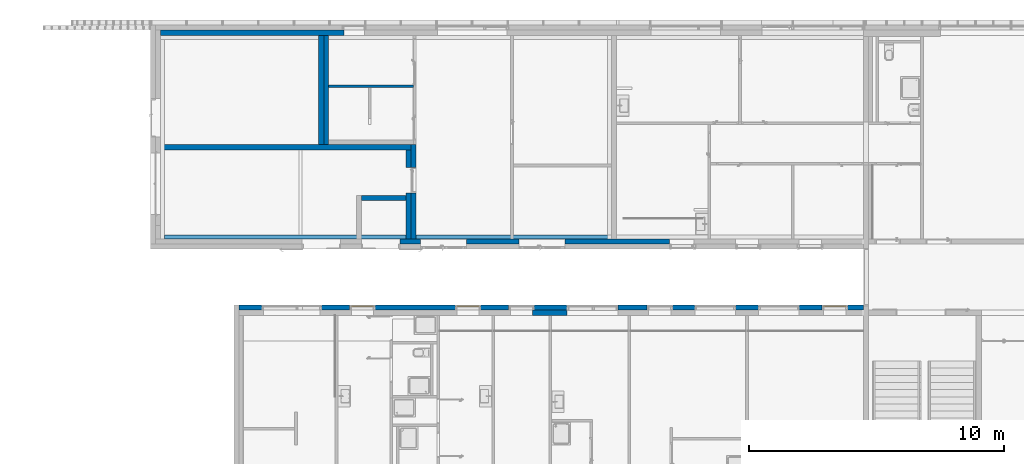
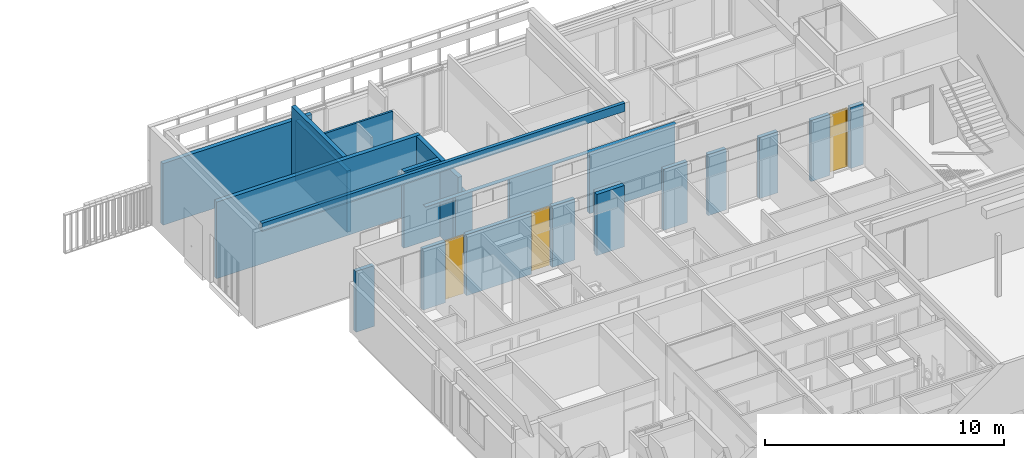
# One storey, part 113 of 240: 12 walls, 3 windows, 27 openings.
"""IFC2X3 building model written with IfcOpenShell, lengths in centimetres."""

from ifc_helpers import new_model, entity, si_unit, converted_unit, derived_unit, direction, frame, frame_2d, origin, origin_2d_with_axis, place, context, subcontext, project, spatial, polyline, rectangle, extrude, clip, bounded_halfspace, faceted_brep, source, transform, mapped, material, material_list, layer, layer_set, layer_usage, type_object, type_shapes, element, fill, save


model = new_model("IFC2X3")

# Units and contexts
model_context = context("Model", 3, precision=0.001, world=origin(), true_north=direction((6.12303176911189e-17, 1.0)))
body_context = subcontext(model_context, "Body", "Model", "MODEL_VIEW")
ifc_project = project(units=[si_unit("LENGTHUNIT", "METRE", prefix="CENTI"), si_unit("AREAUNIT", "SQUARE_METRE"), si_unit("VOLUMEUNIT", "CUBIC_METRE"), converted_unit("PLANEANGLEUNIT", "DEGREE", entity("IfcRatioMeasure", 0.0174532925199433), si_unit("PLANEANGLEUNIT", "RADIAN"), dimensions=[0, 0, 0, 0, 0, 0, 0]), si_unit("MASSUNIT", "GRAM", prefix="KILO"), derived_unit("MASSDENSITYUNIT", [(si_unit("MASSUNIT", "GRAM", prefix="KILO"), 1), (si_unit("LENGTHUNIT", "METRE"), -3)]), si_unit("TIMEUNIT", "SECOND"), si_unit("FREQUENCYUNIT", "HERTZ"), si_unit("THERMODYNAMICTEMPERATUREUNIT", "DEGREE_CELSIUS"), derived_unit("THERMALTRANSMITTANCEUNIT", [(si_unit("MASSUNIT", "GRAM", prefix="KILO"), 1), (si_unit("THERMODYNAMICTEMPERATUREUNIT", "KELVIN"), -1), (si_unit("TIMEUNIT", "SECOND"), -3)]), derived_unit("VOLUMETRICFLOWRATEUNIT", [(si_unit("LENGTHUNIT", "METRE"), 3), (si_unit("TIMEUNIT", "SECOND"), -1)]), si_unit("ELECTRICCURRENTUNIT", "AMPERE"), si_unit("ELECTRICVOLTAGEUNIT", "VOLT"), si_unit("POWERUNIT", "WATT"), si_unit("FORCEUNIT", "NEWTON", prefix="KILO"), si_unit("ILLUMINANCEUNIT", "LUX"), si_unit("LUMINOUSFLUXUNIT", "LUMEN"), si_unit("LUMINOUSINTENSITYUNIT", "CANDELA"), derived_unit("USERDEFINED", [(si_unit("MASSUNIT", "GRAM", prefix="KILO"), -1), (si_unit("LENGTHUNIT", "METRE"), -2), (si_unit("TIMEUNIT", "SECOND"), 3), (si_unit("LUMINOUSFLUXUNIT", "LUMEN"), 1)]), derived_unit("LINEARVELOCITYUNIT", [(si_unit("LENGTHUNIT", "METRE"), 1), (si_unit("TIMEUNIT", "SECOND"), -1)]), si_unit("PRESSUREUNIT", "PASCAL"), derived_unit("USERDEFINED", [(si_unit("LENGTHUNIT", "METRE"), -2), (si_unit("MASSUNIT", "GRAM", prefix="KILO"), 1), (si_unit("TIMEUNIT", "SECOND"), -2)])], contexts=[model_context])

# Site, building, storey
site_placement = place(None, frame((-2781.94577612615, 7442.24238424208, 0.0)))
site = spatial("IfcSite", under=ifc_project, at=site_placement, Name="Default", CompositionType="ELEMENT")
building_placement = place(site_placement, origin())
building = spatial("IfcBuilding", under=site, at=building_placement, CompositionType="ELEMENT")
storey_placement = place(building_placement, origin())
storey = spatial("IfcBuildingStorey", under=building, at=storey_placement, Name="N00 - COO", CompositionType="ELEMENT", Elevation=0.0)

# Wall, openings, windows
ifc_material_1 = material(Name="Aluminium bardage")
ifc_layer_1 = layer(ifc_material_1, 0.5)
ifc_material_2 = material(Name="01 - Lame d'air")
ifc_layer_2 = layer(ifc_material_2, 1.5)
ifc_material_3 = material(Name="00 - Isolant")
ifc_layer_3 = layer(ifc_material_3, 18.0)
ifc_layer_set_1 = layer_set([ifc_layer_1, ifc_layer_2, ifc_layer_3], Name="Mur de base:04 - Parement - ITE 18cm + vide 2cm")
ifc_layer_usage_1 = layer_usage(ifc_layer_set_1, "AXIS2", "NEGATIVE", 10.0)
wall_type_1 = type_object("IfcWallType", Name="Mur de base:04 - Parement - ITE 18cm + vide 2cm", PredefinedType="STANDARD", material=ifc_layer_set_1)
wall_1_placement = place(building_placement, frame((-10881.6130476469, -1080.0, 0.0)))
wall_1 = element("IfcWallStandardCase", 1, at=wall_1_placement, inside=storey, type_object=wall_type_1, material=ifc_layer_usage_1, Name="Mur de base:04 - Parement - ITE 18cm + vide 2cm", ObjectType="Mur de base:04 - Parement - ITE 18cm + vide 2cm", context=body_context, shape_type="SweptSolid", body=[
    extrude(rectangle(XDim=2452.0, YDim=20.0000000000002, at=frame_2d((1226.0, 6.83897383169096e-14), x_axis=(-1.0, 0.0))), origin(), (0.0, 0.0, 1.0), 311.0),
])
opening_1_placement = place(wall_1_placement, origin())
element("IfcOpeningElement", 2, at=opening_1_placement, cuts=wall_1, Name="Mur de base:04 - Parement - ITE 18cm + vide 2cm", ObjectType="Opening", context=body_context, shape_type="SweptSolid", body=[
    extrude(rectangle(XDim=310.999999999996, YDim=235.0, at=frame_2d((8.66862137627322e-13, 0.0), x_axis=(0.0, 1.0))), frame((206.231919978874, -25.2399999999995, 155.499999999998), z_axis=(0.0, 1.0, 0.0), x_axis=(-1.0, 0.0, 0.0)), (0.0, 0.0, 1.0), 50.48),
])
opening_2_placement = place(wall_1_placement, origin())
element("IfcOpeningElement", 3, at=opening_2_placement, cuts=wall_1, Name="Mur de base:04 - Parement - ITE 18cm + vide 2cm", ObjectType="Opening", context=body_context, shape_type="SweptSolid", body=[
    extrude(rectangle(XDim=312.5, YDim=160.0, at=frame_2d((-8.66862137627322e-13, 0.0), x_axis=(0.0, 1.0))), frame((2119.61316997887, -25.2399999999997, 156.25), z_axis=(0.0, 1.0, 0.0), x_axis=(-1.0, 0.0, 0.0)), (0.0, 0.0, 1.0), 50.48),
])
opening_3_placement = place(wall_1_placement, origin())
element("IfcOpeningElement", 4, at=opening_3_placement, cuts=wall_1, Name="Mur de base:04 - Parement - ITE 18cm + vide 2cm", ObjectType="Opening", context=body_context, shape_type="SweptSolid", body=[
    extrude(rectangle(XDim=312.5, YDim=160.0, at=frame_2d((-8.66862137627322e-13, 0.0), x_axis=(0.0, 1.0))), frame((1869.61316997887, -25.2399999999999, 156.25), z_axis=(0.0, 1.0, 0.0), x_axis=(-1.0, 0.0, 0.0)), (0.0, 0.0, 1.0), 50.48),
])
opening_4_placement = place(wall_1_placement, origin())
element("IfcOpeningElement", 5, at=opening_4_placement, cuts=wall_1, Name="Mur de base:04 - Parement - ITE 18cm + vide 2cm", ObjectType="Opening", context=body_context, shape_type="SweptSolid", body=[
    extrude(rectangle(XDim=312.5, YDim=200.000000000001, at=frame_2d((-8.66862137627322e-13, 0.0), x_axis=(0.0, 1.0))), frame((1387.11316997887, -25.2399999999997, 156.25), z_axis=(0.0, 1.0, 0.0), x_axis=(-1.0, 0.0, 0.0)), (0.0, 0.0, 1.0), 50.48),
])
opening_5_placement = place(wall_1_placement, origin())
element("IfcOpeningElement", 6, at=opening_5_placement, cuts=wall_1, Name="Mur de base:04 - Parement - ITE 18cm + vide 2cm", ObjectType="Opening", context=body_context, shape_type="SweptSolid", body=[
    extrude(rectangle(XDim=312.5, YDim=99.9999999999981, at=frame_2d((0.0, 0.0), x_axis=(0.0, 1.0))), frame((2339.61316997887, -25.2399999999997, 156.25), z_axis=(0.0, 1.0, 0.0), x_axis=(-1.0, 0.0, 0.0)), (0.0, 0.0, 1.0), 50.48),
])
opening_6_placement = place(wall_1_placement, origin())
element("IfcOpeningElement", 7, at=opening_6_placement, cuts=wall_1, Name="Mur de base:04 - Parement - ITE 18cm + vide 2cm", ObjectType="Opening", context=body_context, shape_type="SweptSolid", body=[
    extrude(rectangle(XDim=312.5, YDim=99.9999999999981, at=frame_2d((0.0, 0.0), x_axis=(0.0, 1.0))), frame((1652.11316997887, -25.2399999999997, 156.25), z_axis=(0.0, 1.0, 0.0), x_axis=(-1.0, 0.0, 0.0)), (0.0, 0.0, 1.0), 50.48),
])
opening_7_placement = place(wall_1_placement, origin())
element("IfcOpeningElement", 8, at=opening_7_placement, cuts=wall_1, Name="Mur de base:04 - Parement - ITE 18cm + vide 2cm", ObjectType="Opening", context=body_context, shape_type="SweptSolid", body=[
    extrude(rectangle(XDim=312.5, YDim=99.9999999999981, at=frame_2d((0.0, 0.0), x_axis=(0.0, 1.0))), frame((1108.61316997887, -25.2399999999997, 156.25), z_axis=(0.0, 1.0, 0.0), x_axis=(-1.0, 0.0, 0.0)), (0.0, 0.0, 1.0), 50.48),
])
opening_8_placement = place(wall_1_placement, origin())
element("IfcOpeningElement", 9, at=opening_8_placement, cuts=wall_1, Name="Mur de base:04 - Parement - ITE 18cm + vide 2cm", ObjectType="Opening", context=body_context, shape_type="SweptSolid", body=[
    extrude(rectangle(XDim=312.5, YDim=99.9999999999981, at=frame_2d((0.0, 0.0), x_axis=(0.0, 1.0))), frame((898.61316997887, -25.2399999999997, 156.25), z_axis=(0.0, 1.0, 0.0), x_axis=(-1.0, 0.0, 0.0)), (0.0, 0.0, 1.0), 50.48),
])
opening_9_placement = place(wall_1_placement, origin())
element("IfcOpeningElement", 10, at=opening_9_placement, cuts=wall_1, Name="Mur de base:04 - Parement - ITE 18cm + vide 2cm", ObjectType="Opening", context=body_context, shape_type="SweptSolid", body=[
    extrude(rectangle(XDim=312.5, YDim=99.9999999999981, at=frame_2d((0.0, 0.0), x_axis=(0.0, 1.0))), frame((483.613169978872, -25.2399999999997, 156.25), z_axis=(0.0, 1.0, 0.0), x_axis=(-1.0, 0.0, 0.0)), (0.0, 0.0, 1.0), 50.48),
])
opening_10_placement = place(wall_1_placement, frame((230.11316997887, -10.0, 6.5)))
element("IfcOpeningElement", 11, at=opening_10_placement, cuts=wall_1, Name="Ouvrant vitré:Ouvrant vitré (93cm) RDC:1", ObjectType="Opening", context=body_context, shape_type="SweptSolid", body=[
    extrude(rectangle(XDim=299.5, YDim=87.0000000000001, at=frame_2d((149.75, 43.5), x_axis=(1.0, 0.0))), frame((0.0, 0.0, 0.0), z_axis=(0.0, 1.0, 0.0), x_axis=(0.0, 0.0, 1.0)), (0.0, 0.0, 1.0), 20.0),
])
opening_11_placement = place(wall_1_placement, frame((440.113169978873, -10.0, 6.5)))
opening_11 = element("IfcOpeningElement", 12, at=opening_11_placement, cuts=wall_1, Name="Ouvrant vitré:Ouvrant vitré (93cm) RDC:1", ObjectType="Opening", context=body_context, shape_type="SweptSolid", body=[
    extrude(rectangle(XDim=299.5, YDim=87.0000000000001, at=frame_2d((149.75, 43.5), x_axis=(1.0, 0.0))), frame((0.0, 0.0, 0.0), z_axis=(0.0, 1.0, 0.0), x_axis=(0.0, 0.0, 1.0)), (0.0, 0.0, 1.0), 20.0),
])
opening_12_placement = place(wall_1_placement, frame((855.11316997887, -10.0, 6.5)))
opening_12 = element("IfcOpeningElement", 13, at=opening_12_placement, cuts=wall_1, Name="Ouvrant vitré:Ouvrant vitré (93cm) RDC:1", ObjectType="Opening", context=body_context, shape_type="SweptSolid", body=[
    extrude(rectangle(XDim=299.5, YDim=87.0000000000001, at=frame_2d((149.75, 43.5000000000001), x_axis=(1.0, 0.0))), frame((0.0, 0.0, 0.0), z_axis=(0.0, 1.0, 0.0), x_axis=(0.0, 0.0, 1.0)), (0.0, 0.0, 1.0), 20.0),
])
opening_13_placement = place(wall_1_placement, frame((1065.11316997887, -10.0, 6.5)))
element("IfcOpeningElement", 14, at=opening_13_placement, cuts=wall_1, Name="Ouvrant vitré:Ouvrant vitré (93cm) RDC:1", ObjectType="Opening", context=body_context, shape_type="SweptSolid", body=[
    extrude(rectangle(XDim=299.5, YDim=87.0000000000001, at=frame_2d((149.75, 43.5000000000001), x_axis=(1.0, 0.0))), frame((0.0, 0.0, 0.0), z_axis=(0.0, 1.0, 0.0), x_axis=(0.0, 0.0, 1.0)), (0.0, 0.0, 1.0), 20.0),
])
opening_14_placement = place(wall_1_placement, frame((1393.61316997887, -10.0, 6.5)))
element("IfcOpeningElement", 15, at=opening_14_placement, cuts=wall_1, Name="Ouvrant vitré:Ouvrant vitré (93cm) RDC:1", ObjectType="Opening", context=body_context, shape_type="SweptSolid", body=[
    extrude(rectangle(XDim=299.5, YDim=87.0000000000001, at=frame_2d((149.75, 43.5000000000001), x_axis=(1.0, 0.0))), frame((0.0, 0.0, 0.0), z_axis=(0.0, 1.0, 0.0), x_axis=(0.0, 0.0, 1.0)), (0.0, 0.0, 1.0), 20.0),
])
opening_15_placement = place(wall_1_placement, frame((1608.61316997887, -10.0, 6.5)))
element("IfcOpeningElement", 16, at=opening_15_placement, cuts=wall_1, Name="Ouvrant vitré:Ouvrant vitré (93cm) RDC:1", ObjectType="Opening", context=body_context, shape_type="SweptSolid", body=[
    extrude(rectangle(XDim=299.5, YDim=87.0000000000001, at=frame_2d((149.75, 43.5000000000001), x_axis=(1.0, 0.0))), frame((0.0, 0.0, 0.0), z_axis=(0.0, 1.0, 0.0), x_axis=(0.0, 0.0, 1.0)), (0.0, 0.0, 1.0), 20.0),
])
opening_16_placement = place(wall_1_placement, frame((2296.11316997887, -10.0, 6.5)))
opening_16 = element("IfcOpeningElement", 17, at=opening_16_placement, cuts=wall_1, Name="Ouvrant vitré:Ouvrant vitré (93cm) RDC:1", ObjectType="Opening", context=body_context, shape_type="SweptSolid", body=[
    extrude(rectangle(XDim=299.5, YDim=87.0000000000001, at=frame_2d((149.75, 43.5000000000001), x_axis=(1.0, 0.0))), frame((0.0, 0.0, 0.0), z_axis=(0.0, 1.0, 0.0), x_axis=(0.0, 0.0, 1.0)), (0.0, 0.0, 1.0), 20.0),
])
ifc_material_4 = material(Name="Verre")
ifc_material_5 = material(Name="Aluminium")
ifc_material_list_1 = material_list([ifc_material_4, ifc_material_5])
ifc_material_list_2 = material_list([ifc_material_4, ifc_material_5])
window_style = type_object("IfcWindowStyle", Name="Ouvrant vitré (93cm) RDC", ConstructionType="NOTDEFINED", OperationType="NOTDEFINED", ParameterTakesPrecedence=False, Sizeable=False, material=ifc_material_list_2)
shared_shape = source(origin(), body_context, "Body", "Brep", [
    faceted_brep([(80.4999999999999, 15.2499999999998, 293.0), (80.4999999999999, 15.2499999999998, 6.49999999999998), (6.5000000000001, 15.2500000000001, 6.49999999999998), (6.5000000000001, 15.2500000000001, 293.0), (80.4999999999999, 13.2499999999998, 293.0), (80.4999999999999, 13.2499999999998, 6.49999999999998), (6.50000000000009, 13.2500000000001, 6.49999999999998), (6.50000000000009, 13.2500000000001, 293.0)], [[[0, 1, 2, 3]], [[1, 0, 4, 5]], [[2, 1, 5, 6]], [[3, 2, 6, 7]], [[4, 7, 6, 5]], [[0, 3, 7, 4]]]),
    faceted_brep([(83.5, 16.5395884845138, 296.0), (83.5, 16.5395884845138, 3.50000000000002), (3.50000000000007, 16.5395884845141, 3.50000000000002), (3.50000000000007, 16.5395884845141, 296.0), (80.5, 16.5395884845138, 293.0), (6.50000000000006, 16.539588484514, 293.0), (6.50000000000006, 16.539588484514, 6.50000000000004), (80.5, 16.5395884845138, 6.50000000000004), (83.5, 13.039588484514, 296.0), (83.5, 13.039588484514, 3.50000000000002), (3.50000000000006, 13.0395884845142, 3.50000000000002), (3.50000000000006, 13.0395884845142, 296.0), (6.50000000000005, 13.0395884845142, 293.0), (6.50000000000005, 13.0395884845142, 6.50000000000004), (80.5, 13.039588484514, 6.50000000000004), (80.5, 13.039588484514, 293.0)], [[[0, 1, 2, 3], [4, 5, 6, 7]], [[1, 0, 8, 9]], [[2, 1, 9, 10]], [[3, 2, 10, 11]], [[6, 5, 12, 13]], [[7, 6, 13, 14]], [[4, 7, 14, 15]], [[15, 14, 13, 12], [8, 11, 10, 9]], [[0, 3, 11, 8]], [[5, 4, 15, 12]]], outer=[[True, False], [True], [True], [True], [True], [True], [True], [False, True], [True], [True]]),
    faceted_brep([(82.0, 16.5395884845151, 294.5), (82.0, 18.0395884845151, 294.5), (82.0, 18.0395884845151, 5.0), (82.0, 16.5395884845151, 5.0), (87.0, 18.0395884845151, 0.0), (0.0, 18.0395884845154, 0.0), (0.0, 18.0395884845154, 299.5), (87.0, 18.0395884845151, 299.5), (5.0, 18.0395884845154, 294.5), (5.0, 18.0395884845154, 5.0), (5.0, 16.5395884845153, 5.0), (5.0, 16.5395884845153, 294.5), (83.5, 16.5395884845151, 296.0), (3.50000000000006, 16.5395884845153, 296.0), (3.50000000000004, 16.5395884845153, 3.50000000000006), (83.5, 16.5395884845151, 3.50000000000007), (83.5, 13.0395884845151, 296.0), (83.5, 13.0395884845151, 3.50000000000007), (3.50000000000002, 13.0395884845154, 3.50000000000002), (3.50000000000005, 13.0395884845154, 296.0), (87.0, 13.0395884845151, 299.5), (0.0, 13.0395884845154, 299.5), (0.0, 13.0395884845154, 0.0), (87.0, 13.0395884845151, 0.0)], [[[0, 1, 2, 3]], [[4, 5, 6, 7], [1, 8, 9, 2]], [[3, 2, 9, 10]], [[3, 10, 11, 0], [12, 13, 14, 15]], [[16, 12, 15, 17]], [[17, 15, 14, 18]], [[17, 18, 19, 16], [20, 21, 22, 23]], [[7, 20, 23, 4]], [[4, 23, 22, 5]], [[10, 9, 8, 11]], [[18, 14, 13, 19]], [[5, 22, 21, 6]], [[11, 8, 1, 0]], [[19, 13, 12, 16]], [[6, 21, 20, 7]]], outer=[[True], [True, False], [True], [False, True], [True], [True], [False, True], [True], [True], [True], [True], [True], [True], [True], [True]]),
])
type_shapes(window_style, [shared_shape])
window_1_placement = place(opening_16_placement, origin())
window_1 = element("IfcWindow", 18, at=window_1_placement, inside=storey, type_object=window_style, material=ifc_material_list_1, Name="Ouvrant vitré:Ouvrant vitré (93cm) RDC", ObjectType="Ouvrant vitré:Ouvrant vitré (93cm) RDC", OverallHeight=299.5, OverallWidth=86.9999999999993, context=body_context, shape_type="MappedRepresentation", body=[
    mapped(shared_shape, transform((0.0, 0.0, 0.0), scale=1.0)),
])
fill(opening_16, window_1)
ifc_material_list_3 = material_list([ifc_material_4, ifc_material_5])
window_2_placement = place(opening_12_placement, origin())
window_2 = element("IfcWindow", 19, at=window_2_placement, inside=storey, type_object=window_style, material=ifc_material_list_3, Name="Ouvrant vitré:Ouvrant vitré (93cm) RDC", ObjectType="Ouvrant vitré:Ouvrant vitré (93cm) RDC", OverallHeight=299.5, OverallWidth=86.9999999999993, context=body_context, shape_type="MappedRepresentation", body=[
    mapped(shared_shape, transform((0.0, 0.0, 0.0), scale=1.0)),
])
fill(opening_12, window_2)
ifc_material_list_4 = material_list([ifc_material_4, ifc_material_5])
window_3_placement = place(opening_11_placement, origin())
window_3 = element("IfcWindow", 20, at=window_3_placement, inside=storey, type_object=window_style, material=ifc_material_list_4, Name="Ouvrant vitré:Ouvrant vitré (93cm) RDC", ObjectType="Ouvrant vitré:Ouvrant vitré (93cm) RDC", OverallHeight=299.5, OverallWidth=86.9999999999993, context=body_context, shape_type="MappedRepresentation", body=[
    mapped(shared_shape, transform((0.0, 0.0, 0.0), scale=1.0)),
])
fill(opening_11, window_3)

# Walls
ifc_material_6 = material(Name="01 - Maçonnerie")
ifc_layer_4 = layer(ifc_material_6, 20.0)
ifc_layer_set_2 = layer_set([ifc_layer_4], Name="Mur de base:04 - Structure - béton - 20cm")
ifc_layer_usage_2 = layer_usage(ifc_layer_set_2, "AXIS2", "NEGATIVE", 10.0)
wall_type_2 = type_object("IfcWallType", Name="Mur de base:04 - Structure - béton - 20cm", PredefinedType="STANDARD", material=ifc_layer_set_2)
wall_2_placement = place(building_placement, frame((-10206.4998776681, -450.0, 0.0), z_axis=(0.0, 0.0, 1.0), x_axis=(-1.0, 0.0, 0.0)))
element("IfcWallStandardCase", 21, at=wall_2_placement, inside=storey, type_object=wall_type_2, material=ifc_layer_usage_2, Name="Mur de base:04 - Structure - béton - 20cm", ObjectType="Mur de base:04 - Structure - béton - 20cm", context=body_context, shape_type="SweptSolid", body=[
    extrude(rectangle(XDim=984.161819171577, YDim=20.0, at=frame_2d((492.080909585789, -9.76996261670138e-15), x_axis=(-1.0, 0.0))), origin(), (0.0, 0.0, 1.0), 392.0),
])
ifc_layer_usage_3 = layer_usage(ifc_layer_set_2, "AXIS2", "NEGATIVE", 10.0)
wall_3_placement = place(building_placement, frame((-10559.4998776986, -10.0, 0.0), z_axis=(0.0, 0.0, 1.0), x_axis=(0.0, -1.0, 0.0)))
element("IfcWallStandardCase", 22, at=wall_3_placement, inside=storey, type_object=wall_type_2, material=ifc_layer_usage_3, Name="Mur de base:04 - Structure - béton - 20cm", ObjectType="Mur de base:04 - Structure - béton - 20cm", context=body_context, shape_type="SweptSolid", body=[
    extrude(rectangle(XDim=430.0, YDim=19.9999999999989, at=frame_2d((215.0, 0.0), x_axis=(-1.0, 0.0))), origin(), (0.0, 0.0, 1.0), 392.0),
])
ifc_layer_usage_4 = layer_usage(ifc_layer_set_2, "AXIS2", "NEGATIVE", 10.0)
wall_4_placement = place(building_placement, frame((-9594.49987766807, -1100.0, 0.0), z_axis=(0.0, 0.0, 1.0), x_axis=(-1.0, 0.0, 0.0)))
element("IfcWallStandardCase", 23, at=wall_4_placement, inside=storey, type_object=wall_type_2, material=ifc_layer_usage_4, Name="Mur de base:04 - Structure - béton - 20cm", ObjectType="Mur de base:04 - Structure - béton - 20cm", context=body_context, shape_type="SweptSolid", body=[
    extrude(rectangle(XDim=134.999999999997, YDim=20.0000000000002, at=frame_2d((67.4999999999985, 0.0), x_axis=(-1.0, 0.0))), origin(), (0.0, 0.0, 1.0), 313.0),
])

# Wall, openings
ifc_layer_usage_5 = layer_usage(ifc_layer_set_2, "AXIS2", "NEGATIVE", 10.0)
wall_5_placement = place(building_placement, frame((-10395.1616968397, -820.048500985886, 0.0)))
wall_5 = element("IfcWallStandardCase", 24, at=wall_5_placement, inside=storey, type_object=wall_type_2, material=ifc_layer_usage_5, Name="Mur de base:04 - Structure - béton - 20cm", ObjectType="Mur de base:04 - Structure - béton - 20cm", context=body_context, shape_type="SweptSolid", body=[
    extrude(rectangle(XDim=1213.16181917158, YDim=20.0, at=frame_2d((606.580909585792, 3.73034936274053e-14), x_axis=(-1.0, 0.0))), origin(), (0.0, 0.0, 1.0), 312.999999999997),
])
opening_17_placement = place(wall_5_placement, origin())
element("IfcOpeningElement", 25, at=opening_17_placement, cuts=wall_5, Name="Mur de base:04 - Structure - béton - 20cm", ObjectType="Opening", context=body_context, shape_type="SweptSolid", body=[
    extrude(rectangle(XDim=326.0, YDim=179.999999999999, at=frame_2d((0.0, 8.66862137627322e-13), x_axis=(1.0, 0.0))), frame((316.499999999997, -30.0999999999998, 148.0), z_axis=(0.0, 1.0, 0.0), x_axis=(0.0, 0.0, -1.0)), (0.0, 0.0, 1.0), 61.3),
])
opening_18_placement = place(wall_5_placement, frame((612.661819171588, -30.1000000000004, -15.0)))
element("IfcOpeningElement", 26, at=opening_18_placement, cuts=wall_5, Name="Mur de base:04 - Structure - béton - 20cm", ObjectType="Opening", context=body_context, shape_type="Brep", body=[
    faceted_brep([(178.0, 0.0, 324.0), (2.0, 0.0, 324.0), (2.0, 0.0, 0.0), (178.0, 0.0, 0.0), (178.0, 1.30000000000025, 0.0), (178.0, 1.30000000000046, 324.0), (2.0, 1.30000000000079, 0.0), (0.0, 1.30000000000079, 0.0), (0.0, 61.3000000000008, 0.0), (180.0, 61.3000000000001, 0.0), (180.0, 1.30000000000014, 0.0), (2.0, 1.30000000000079, 324.0), (0.0, 61.3000000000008, 326.0), (180.0, 61.3000000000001, 326.0), (0.0, 1.30000000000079, 326.0), (180.0, 1.30000000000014, 326.0)], [[[0, 1, 2, 3]], [[3, 4, 5, 0]], [[2, 6, 7, 8, 9, 10, 4, 3]], [[1, 11, 6, 2]], [[0, 5, 11, 1]], [[12, 13, 9, 8]], [[14, 7, 6, 11, 5, 4, 10, 15]], [[8, 7, 14, 12]], [[13, 15, 10, 9]], [[12, 14, 15, 13]]]),
])
opening_19_placement = place(wall_5_placement, origin())
element("IfcOpeningElement", 27, at=opening_19_placement, cuts=wall_5, Name="Mur de base:04 - Structure - béton - 20cm", ObjectType="Opening", context=body_context, shape_type="SweptSolid", body=[
    extrude(rectangle(XDim=310.999999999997, YDim=99.9999999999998, at=frame_2d((-8.66862137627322e-13, 0.0), x_axis=(0.0, 1.0))), frame((1254.16181923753, -25.24, 155.499999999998), z_axis=(0.0, 1.0, 0.0), x_axis=(-1.0, 0.0, 0.0)), (0.0, 0.0, 1.0), 50.48),
])
opening_20_placement = place(wall_5_placement, origin())
element("IfcOpeningElement", 28, at=opening_20_placement, cuts=wall_5, Name="Mur de base:04 - Structure - béton - 20cm", ObjectType="Opening", context=body_context, shape_type="SweptSolid", body=[
    extrude(rectangle(XDim=224.0, YDim=91.9999999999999, at=frame_2d((2.1316282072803e-14, 0.0), x_axis=(1.0, 0.0))), frame((1756.16181917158, -162.4, 197.700000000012), z_axis=(0.0, 1.0, 0.0), x_axis=(0.0, 0.0, 1.0)), (0.0, 0.0, 1.0), 304.8),
])
opening_21_placement = place(wall_5_placement, origin())
element("IfcOpeningElement", 29, at=opening_21_placement, cuts=wall_5, Name="Mur de base:04 - Structure - béton - 20cm", ObjectType="Opening", context=body_context, shape_type="SweptSolid", body=[
    extrude(rectangle(XDim=316.500000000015, YDim=99.9999999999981, at=frame_2d((0.0, 0.0), x_axis=(0.0, 1.0))), frame((1756.2151206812, -25.2399999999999, 158.250000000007), z_axis=(0.0, 1.0, 0.0), x_axis=(-1.0, 0.0, 0.0)), (0.0, 0.0, 1.0), 50.48),
])
opening_22_placement = place(wall_5_placement, origin())
element("IfcOpeningElement", 30, at=opening_22_placement, cuts=wall_5, Name="Mur de base:04 - Structure - béton - 20cm", ObjectType="Opening", context=body_context, shape_type="SweptSolid", body=[
    extrude(rectangle(XDim=310.999999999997, YDim=99.9999999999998, at=frame_2d((-8.66862137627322e-13, 0.0), x_axis=(0.0, 1.0))), frame((1513.16181917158, -25.24, 155.499999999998), z_axis=(0.0, 1.0, 0.0), x_axis=(-1.0, 0.0, 0.0)), (0.0, 0.0, 1.0), 50.48),
])
opening_23_placement = place(wall_5_placement, origin())
element("IfcOpeningElement", 31, at=opening_23_placement, cuts=wall_5, Name="Mur de base:04 - Structure - béton - 20cm", ObjectType="Opening", context=body_context, shape_type="SweptSolid", body=[
    extrude(rectangle(XDim=224.0, YDim=91.9999999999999, at=frame_2d((-7.105427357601e-15, 0.0), x_axis=(1.0, 0.0))), frame((1513.10851766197, -162.4, 192.0), z_axis=(0.0, 1.0, 0.0), x_axis=(0.0, 0.0, 1.0)), (0.0, 0.0, 1.0), 304.8),
])
opening_24_placement = place(wall_5_placement, origin())
element("IfcOpeningElement", 32, at=opening_24_placement, cuts=wall_5, Name="Mur de base:04 - Structure - béton - 20cm", ObjectType="Opening", context=body_context, shape_type="SweptSolid", body=[
    extrude(rectangle(XDim=224.0, YDim=91.9999999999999, at=frame_2d((-7.105427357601e-15, 0.0), x_axis=(1.0, 0.0))), frame((1254.10851772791, -162.4, 192.0), z_axis=(0.0, 1.0, 0.0), x_axis=(0.0, 0.0, 1.0)), (0.0, 0.0, 1.0), 304.8),
])
opening_25_placement = place(wall_5_placement, origin())
element("IfcOpeningElement", 33, at=opening_25_placement, cuts=wall_5, Name="Mur de base:04 - Structure - béton - 20cm", ObjectType="Opening", context=body_context, shape_type="SweptSolid", body=[
    extrude(rectangle(XDim=311.000000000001, YDim=151.0, at=origin_2d_with_axis()), frame((69.0809095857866, -182.4, 155.500000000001), z_axis=(0.0, 1.0, 0.0), x_axis=(0.0, 0.0, 1.0)), (0.0, 0.0, 1.0), 304.8),
])

# Wall
ifc_layer_usage_6 = layer_usage(ifc_layer_set_2, "AXIS2", "NEGATIVE", 10.0)
wall_6_placement = place(building_placement, frame((-10470.6616968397, 0.0, 0.0), z_axis=(0.0, 0.0, 1.0), x_axis=(-1.0, 0.0, 0.0)))
element("IfcWallStandardCase", 34, at=wall_6_placement, inside=storey, type_object=wall_type_2, material=ifc_layer_usage_6, Name="Mur de base:04 - Structure - béton - 20cm", ObjectType="Mur de base:04 - Structure - béton - 20cm", context=body_context, shape_type="SweptSolid", body=[
    extrude(rectangle(XDim=720.000000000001, YDim=20.0, at=frame_2d((360.0, -1.77635683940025e-15), x_axis=(-1.0, 0.0))), origin(), (0.0, 0.0, 1.0), 315.000000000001),
])

# Wall, opening
ifc_layer_usage_7 = layer_usage(ifc_layer_set_2, "AXIS2", "POSITIVE", -10.0)
wall_7_placement = place(building_placement, frame((-10216.4998776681, -810.048500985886, 0.0), z_axis=(0.0, 0.0, 1.0), x_axis=(0.0, 1.0, 0.0)))
wall_7 = element("IfcWallStandardCase", 35, at=wall_7_placement, inside=storey, type_object=wall_type_2, material=ifc_layer_usage_7, Name="Mur de base:04 - Structure - béton - 20cm", ObjectType="Mur de base:04 - Structure - béton - 20cm", context=body_context, shape_type="SweptSolid", body=[
    extrude(rectangle(XDim=350.048500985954, YDim=19.9999999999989, at=frame_2d((175.024250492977, 0.0), x_axis=(-1.0, 0.0))), origin(), (0.0, 0.0, 1.0), 392.0),
])
opening_26_placement = place(wall_7_placement, origin())
element("IfcOpeningElement", 36, at=opening_26_placement, cuts=wall_7, Name="Mur de base:04 - Structure - béton - 20cm", ObjectType="Opening", context=body_context, shape_type="SweptSolid", body=[
    extrude(rectangle(XDim=248.500000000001, YDim=99.9999999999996, at=origin_2d_with_axis()), frame((231.048500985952, -162.400000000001, 124.250000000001), z_axis=(0.0, 1.0, 0.0), x_axis=(0.0, 0.0, 1.0)), (0.0, 0.0, 1.0), 304.8),
])

# Walls
ifc_layer_usage_8 = layer_usage(ifc_layer_set_2, "AXIS2", "NEGATIVE", 10.0)
wall_8_placement = place(building_placement, frame((-10401.5807872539, -649.0, 0.0)))
element("IfcWallStandardCase", 37, at=wall_8_placement, inside=storey, type_object=wall_type_2, material=ifc_layer_usage_8, Name="Mur de base:04 - Structure - béton - 20cm", ObjectType="Mur de base:04 - Structure - béton - 20cm", context=body_context, shape_type="SweptSolid", body=[
    extrude(rectangle(XDim=175.080909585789, YDim=20.0, at=frame_2d((87.5404547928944, -3.37507799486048e-14), x_axis=(-1.0, 0.0))), origin(), (0.0, 0.0, 1.0), 392.0),
])
ifc_material_7 = material(Name="01 - Enduit/Plâtre")
ifc_layer_5 = layer(ifc_material_7, 1.3)
ifc_layer_6 = layer(ifc_material_3, 7.4)
ifc_layer_7 = layer(ifc_material_7, 1.3)
ifc_layer_set_3 = layer_set([ifc_layer_5, ifc_layer_6, ifc_layer_7], Name="Mur de base:06 - cloisons - Ba13 10cm")
ifc_layer_usage_9 = layer_usage(ifc_layer_set_3, "AXIS2", "NEGATIVE", 5.0)
wall_type_3 = type_object("IfcWallType", Name="Mur de base:06 - cloisons - Ba13 10cm", PredefinedType="STANDARD", material=ifc_layer_set_3)
wall_9_placement = place(building_placement, frame((-10197.4998776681, -210.0, 0.0), z_axis=(0.0, 0.0, 1.0), x_axis=(-1.0, 0.0, 0.0)))
element("IfcWallStandardCase", 38, at=wall_9_placement, inside=storey, type_object=wall_type_3, material=ifc_layer_usage_9, Name="Mur de base:06 - cloisons - Ba13 10cm", ObjectType="Mur de base:06 - cloisons - Ba13 10cm", context=body_context, shape_type="Clipping", body=[
    clip(clip(extrude(rectangle(XDim=352.000000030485, YDim=10.0, at=frame_2d((176.000000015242, -6.66133814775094e-15), x_axis=(-1.0, 0.0))), origin(), (0.0, 0.0, 1.0), 361.0), bounded_halfspace(frame((333.0, 5.0, 313.0), z_axis=(-1.0, 0.0, 0.0), x_axis=(0.0, -1.0, 0.0)), True, frame((333.0, 5.0, 313.0), z_axis=(-1.0, 0.0, 0.0), x_axis=(0.0, -1.0, 0.0)), polyline([(0.0, 0.0), (0.0, -313.0), (10.0, -313.0), (10.0, 0.0), (0.0, 0.0)]))), bounded_halfspace(frame((333.0, -5.0, 313.0), z_axis=(0.0, 0.0, 1.0), x_axis=(-1.0, 0.0, 0.0)), True, frame((333.0, -5.0, 313.0), z_axis=(0.0, 0.0, 1.0), x_axis=(-1.0, 0.0, 0.0)), polyline([(0.0, 0.0), (-19.0, 0.0), (-19.0, -10.0), (0.0, -10.0), (0.0, 0.0)]))),
])
ifc_layer_8 = layer(ifc_material_3, 16.0)
ifc_layer_set_4 = layer_set([ifc_layer_8], Name="Mur de base:04 - retour isolation acrotère - ITE 16cm")
ifc_layer_usage_10 = layer_usage(ifc_layer_set_4, "AXIS2", "NEGATIVE", 8.0)
wall_type_4 = type_object("IfcWallType", Name="Mur de base:04 - retour isolation acrotère - ITE 16cm", PredefinedType="STANDARD", material=ifc_layer_set_4)
wall_10_placement = place(building_placement, frame((-9419.49987766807, -802.048500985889, 448.0), z_axis=(0.0, 0.0, 1.0), x_axis=(-1.0, 0.0, 0.0)))
element("IfcWallStandardCase", 39, at=wall_10_placement, inside=storey, type_object=wall_type_4, material=ifc_layer_usage_10, Name="Mur de base:04 - retour isolation acrotère - ITE 16cm", ObjectType="Mur de base:04 - retour isolation acrotère - ITE 16cm", context=body_context, shape_type="Clipping", body=[
    clip(extrude(rectangle(XDim=1755.16181917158, YDim=16.0, at=frame_2d((877.580909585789, -1.24344978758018e-14), x_axis=(-1.0, 0.0))), origin(), (0.0, 0.0, 1.0), 42.0), bounded_halfspace(frame((1755.16181917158, -8.0, 0.0), z_axis=(0.0, 0.0, 1.0), x_axis=(-1.0, 0.0, 0.0)), True, frame((1755.16181917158, -8.0, 0.0), z_axis=(0.0, 0.0, 1.0), x_axis=(-1.0, 0.0, 0.0)), polyline([(0.0, 0.0), (0.0, -16.0), (1755.16181917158, -16.0), (1755.16181917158, 0.0), (0.0, 0.0)]))),
])
ifc_layer_9 = layer(ifc_material_3, 17.7)
ifc_layer_10 = layer(ifc_material_7, 1.3)
ifc_layer_set_5 = layer_set([ifc_layer_9, ifc_layer_10], Name="Mur de base:04 - Parement -  isolant 20 cm + BA13 2")
ifc_layer_usage_11 = layer_usage(ifc_layer_set_5, "AXIS2", "POSITIVE", -9.5)
wall_type_5 = type_object("IfcWallType", Name="Mur de base:04 - Parement -  isolant 20 cm + BA13 2", PredefinedType="STANDARD", material=ifc_layer_set_5)
wall_11_placement = place(building_placement, frame((-10539.9998776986, -10.0, 0.0), z_axis=(0.0, 0.0, 1.0), x_axis=(0.0, -1.0, 0.0)))
element("IfcWallStandardCase", 40, at=wall_11_placement, inside=storey, type_object=wall_type_5, material=ifc_layer_usage_11, Name="Mur de base:04 - Parement -  isolant 20 cm + BA13 2", ObjectType="Mur de base:04 - Parement -  isolant 20 cm + BA13 2", context=body_context, shape_type="SweptSolid", body=[
    extrude(rectangle(XDim=430.0, YDim=18.9999999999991, at=frame_2d((215.0, 0.0), x_axis=(-1.0, 0.0))), origin(), (0.0, 0.0, 1.0), 313.0),
])

# Wall, opening
ifc_layer_usage_12 = layer_usage(ifc_layer_set_5, "AXIS2", "POSITIVE", -9.5)
wall_12_placement = place(building_placement, frame((-10196.9998776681, -440.0, 0.0), z_axis=(0.0, 0.0, 1.0), x_axis=(0.0, -1.0, 0.0)))
wall_12 = element("IfcWallStandardCase", 41, at=wall_12_placement, inside=storey, type_object=wall_type_5, material=ifc_layer_usage_12, Name="Mur de base:04 - Parement -  isolant 20 cm + BA13 2", ObjectType="Mur de base:04 - Parement -  isolant 20 cm + BA13 2", context=body_context, shape_type="SweptSolid", body=[
    extrude(rectangle(XDim=370.0, YDim=18.9999999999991, at=frame_2d((185.0, 0.0), x_axis=(-1.0, 0.0))), origin(), (0.0, 0.0, 1.0), 313.0),
])
opening_27_placement = place(wall_12_placement, frame((189.0, 9.5, 0.0)))
element("IfcOpeningElement", 42, at=opening_27_placement, cuts=wall_12, Name="Int. Simple:PP simple (0.93m x 2.50m):1", ObjectType="Opening", context=body_context, shape_type="SweptSolid", body=[
    extrude(rectangle(XDim=248.500000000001, YDim=99.9999999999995, at=frame_2d((124.250000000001, 49.9999999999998), x_axis=(1.0, 0.0))), frame((0.0, 0.0, 0.0), z_axis=(0.0, -1.0, 0.0), x_axis=(0.0, 0.0, 1.0)), (0.0, 0.0, 1.0), 19.0),
])

save(model, "model.ifc")
